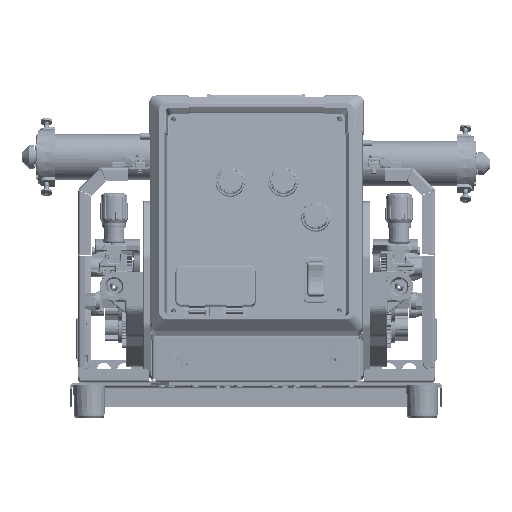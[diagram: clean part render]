
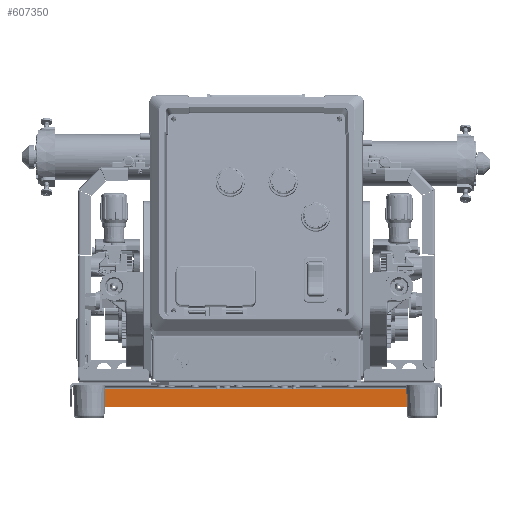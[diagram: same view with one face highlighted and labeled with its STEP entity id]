
A CAD part, top view. The second image highlights one B-rep face of the part: STEP entity #607350.
In plain terms, the highlighted planar face has unit normal (0, 0, 1) as drawn and (1, 0, 0) by its records, which use the part's own axes.
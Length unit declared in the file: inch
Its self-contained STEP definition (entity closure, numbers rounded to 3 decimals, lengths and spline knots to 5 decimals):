
#13769 = EDGE_LOOP ( 'NONE', ( #545864, #146583, #543916, #414022 ) ) ;
#47669 = VERTEX_POINT ( 'NONE', #160664 ) ;
#126454 = CARTESIAN_POINT ( 'NONE',  ( -14.78562, -0.99922, 1.937 ) ) ;
#134082 = LINE ( 'NONE', #553218, #233426 ) ;
#140258 = DIRECTION ( 'NONE',  ( 0., -0.707, -0.707 ) ) ;
#146583 = ORIENTED_EDGE ( 'NONE', *, *, #230739, .T. ) ;
#149390 = CARTESIAN_POINT ( 'NONE',  ( -14.78562, -0.99922, 15.563 ) ) ;
#160664 = CARTESIAN_POINT ( 'NONE',  ( -14.78562, -0.2246, 1.16238 ) ) ;
#162863 = AXIS2_PLACEMENT_3D ( 'NONE', #544704, #444025, #538368 ) ;
#230739 = EDGE_CURVE ( 'NONE', #621968, #249868, #595345, .T. ) ;
#233426 = VECTOR ( 'NONE', #407482, 39.37008 ) ;
#249868 = VERTEX_POINT ( 'NONE', #149390 ) ;
#316207 = EDGE_CURVE ( 'NONE', #621968, #47669, #356935, .T. ) ;
#319338 = VECTOR ( 'NONE', #140258, 39.37008 ) ;
#322465 = EDGE_CURVE ( 'NONE', #249868, #548941, #134082, .T. ) ;
#324488 = DIRECTION ( 'NONE',  ( 0., 0.707, -0.707 ) ) ;
#356935 = LINE ( 'NONE', #546889, #625082 ) ;
#398236 = VECTOR ( 'NONE', #324488, 39.37008 ) ;
#401004 = PLANE ( 'NONE',  #162863 ) ;
#407482 = DIRECTION ( 'NONE',  ( 0., 0., -1. ) ) ;
#414022 = ORIENTED_EDGE ( 'NONE', *, *, #567646, .T. ) ;
#422156 = CARTESIAN_POINT ( 'NONE',  ( -14.78562, -0.2246, 16.33762 ) ) ;
#429389 = CARTESIAN_POINT ( 'NONE',  ( -14.78562, -0.99922, 1.937 ) ) ;
#444025 = DIRECTION ( 'NONE',  ( -1., 0., 0. ) ) ;
#476274 = CARTESIAN_POINT ( 'NONE',  ( -14.78562, -0.99922, 15.563 ) ) ;
#528627 = LINE ( 'NONE', #429389, #398236 ) ;
#538368 = DIRECTION ( 'NONE',  ( 0., 0., 1. ) ) ;
#543916 = ORIENTED_EDGE ( 'NONE', *, *, #322465, .T. ) ;
#544704 = CARTESIAN_POINT ( 'NONE',  ( -14.78562, -0.99922, 17.5 ) ) ;
#545864 = ORIENTED_EDGE ( 'NONE', *, *, #316207, .F. ) ;
#546889 = CARTESIAN_POINT ( 'NONE',  ( -14.78562, -0.2246, 17.5 ) ) ;
#548941 = VERTEX_POINT ( 'NONE', #126454 ) ;
#553218 = CARTESIAN_POINT ( 'NONE',  ( -14.78562, -0.99922, 17.5 ) ) ;
#567646 = EDGE_CURVE ( 'NONE', #548941, #47669, #528627, .T. ) ;
#579782 = FACE_OUTER_BOUND ( 'NONE', #13769, .T. ) ;
#593960 = DIRECTION ( 'NONE',  ( 0., 0., -1. ) ) ;
#595345 = LINE ( 'NONE', #476274, #319338 ) ;
#607350 = ADVANCED_FACE ( 'NONE', ( #579782 ), #401004, .F. ) ;
#621968 = VERTEX_POINT ( 'NONE', #422156 ) ;
#625082 = VECTOR ( 'NONE', #593960, 39.37008 ) ;
